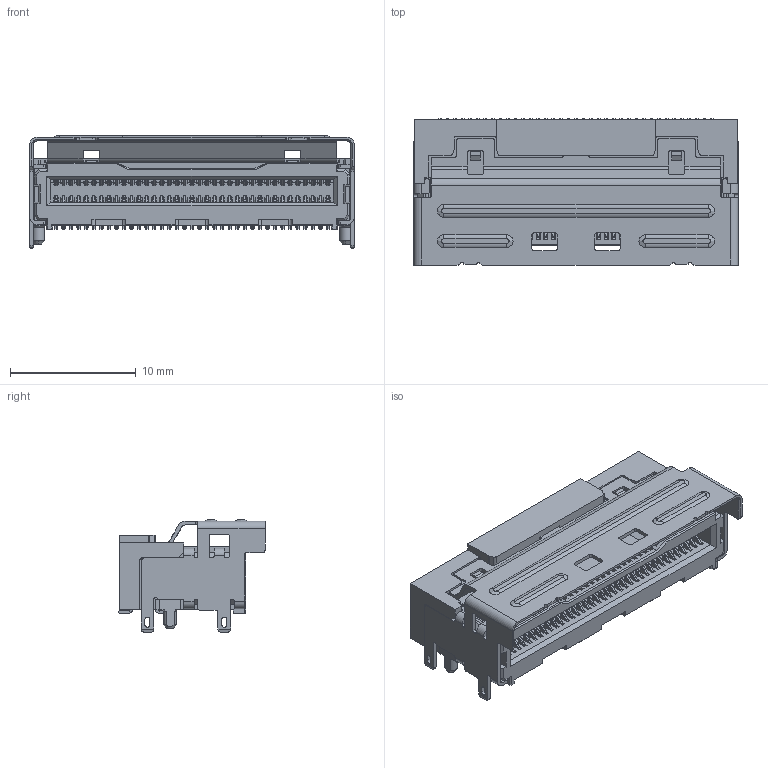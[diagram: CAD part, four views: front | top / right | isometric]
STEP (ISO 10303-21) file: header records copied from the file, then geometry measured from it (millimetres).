
FILE_DESCRIPTION((''),'2;1');
FILE_NAME('ETSE3CC845BCIT4D_ASM_1_ASM_4_ASM','2024-05-08T08:42:06',('binfu-xlc'),(''),'CREO PARAMETRIC BY PTC INC, 2021063','CREO PARAMETRIC BY PTC INC, 2021063','');
FILE_SCHEMA(('AUTOMOTIVE_DESIGN { 1 0 10303 214 1 1 1 1 }'));
Products named in the file (11): ETSE3CC845BCIT4D_3_1_3; ETSE3CC845BCIT4D_5_1_4; ETSE3CC845BCIT4D_15_1_6; ETSE3CC845BCIT4D_34_2_11; ETSE3CC845BCIT4D_37_2_25; ETSE3CC845BCIT4D_38_5_19; ETSE3CC845BCIT4D_41_1_6; ETSE3CC845BCIT4D_48_1_12; ETSE3CC845BCIT4D_67_1_8; ETSE3CC845BCIT4D_39_1; ETSE3CC845BCIT4D_ASM_1_ASM_4_ASM
Assembly tree (78 placements, depth 2):
  ETSE3CC845BCIT4D_ASM_1_ASM_4_ASM
    ETSE3CC845BCIT4D_3_1_3  x13
    ETSE3CC845BCIT4D_5_1_4  x12
    ETSE3CC845BCIT4D_15_1_6  x12
    ETSE3CC845BCIT4D_34_2_11
    ETSE3CC845BCIT4D_37_2_25
    ETSE3CC845BCIT4D_38_5_19
    ETSE3CC845BCIT4D_41_1_6  x12
    ETSE3CC845BCIT4D_48_1_12  x13
    ETSE3CC845BCIT4D_67_1_8  x12
    ETSE3CC845BCIT4D_39_1
Bounding box: 25.8 x 11.62 x 8.93 mm (x, y, z)
Volume: 744.2 mm3; surface area: 3859.6 mm2
Topology: 78 solids, 78 shells, 9546 faces, 25965 edges, 16547 vertices
Faces by surface type: plane 6113, cylinder 2649, bspline 752, cone 32
Entity records: 142947 total; most frequent: CARTESIAN_POINT 23208, ORIENTED_EDGE 19306, DIRECTION 17151, PRESENTATION_STYLE_ASSIGNMENT 9801, STYLED_ITEM 9663, CURVE_STYLE 9653, EDGE_CURVE 9653, VECTOR 8339
